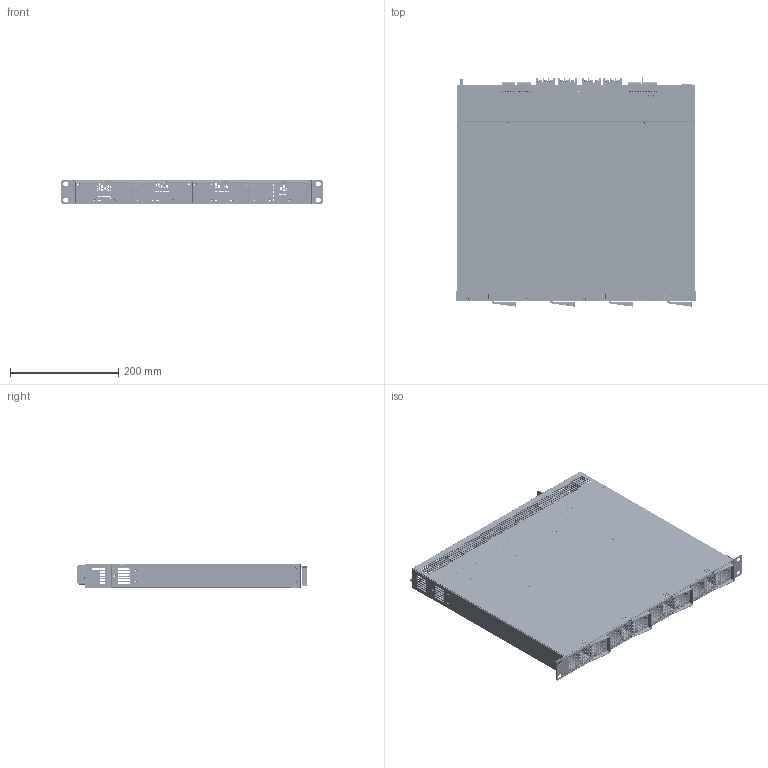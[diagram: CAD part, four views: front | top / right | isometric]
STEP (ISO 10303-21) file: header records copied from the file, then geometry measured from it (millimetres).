
FILE_DESCRIPTION(('Creo Elements/Direct Modeling STEP Export'),'2;1');
FILE_NAME('DHP-1U.stp','2019-04-17T 8:43:39',(''),(''),'PTC Creo Elements/Direct Modeling STEP processor for AP214 (Solid Model)','PTC Creo Elements/Direct Modeling 19.0 09-May-2014 (C) Parametric Technology GmbH','');
FILE_SCHEMA(('AUTOMOTIVE_DESIGN { 1 0 10303 214 1 1 1 1 }'));
Length unit declared in the file: millimetre
Products named in the file (70): 小板.1.1.1.1; ˋ°Ûy; 底蓋; 底; 上蓋; p2.1; p1.1; p1; 下蓋組; ¤ïÊlÛyÊ\S\; ¨Ã£\; PHONE_JACK.1.1; 9727R_PCB; Standard; 9727R_PHII; SUB-9PIN.1; SUB-9PIN; ¨■¥ñ.1.1.1.1.1.1.1.1.1.2.1; ¨■; cu2.1.1.1.1.2; SS; 後PCB; 把手1; 耳片2; 銅片66; 後SOKB; M3-8Lê°çñ.1.1.1.1.1.1.1.2.1.1.1; n1.1.1; 後端子A; 把手B; 把手a; a1.1.1; WW.3; WW.2; WW.1; WW; B單機; 前蓋; a2.1; C-B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
Assembly tree (97 placements, depth 8):
  ¤ïÊlÛyÊ\S\
  all
    ¤ïÊl.1.1.1.1.1.2.1  x4
    p2
    p1.1
    p1
    EEEE
    FFF
    EEEE.1
    a2
      a1.2.1.1  x4
        p1.1
        B-2.1
        單機.1.1.1.1
          V
          a1
            952.1
              hs
              FN  x2
              MHL-24.stp
                MHL-24
              a1
              a1.3
            把手a
              把手B
            mos
              MOSTO3P.1.1.1.1.1  x8
              TR-4RL.stp
                TR-4RL
            63.1.1  x2
            ÊU£\
          a2
            C-C
            C-B
          a2.1
        前蓋
          B單機
          WW
          WW.1
          WW.2
          WW.3
      a1.1.1
    小板.1.1.1.1  x5
    把手a
      把手B
    後端子A
      n1.1.1
      M3-8Lê°çñ.1.1.1.1.1.1.1.2.1.1.1
    後SOKB
    銅片66
    耳片2  x2
    把手1
    後PCB
      SS
        cu2.1.1.1.1.2  x4
        ¨■
          ¨■¥ñ.1.1.1.1.1.1.1.1.1.2.1  x4
          SUB-9PIN
          SUB-9PIN.1
          9727R_PHII
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Bounding box: 483.6 x 423.32 x 44 mm (x, y, z)
Volume: 752743.8 mm3; surface area: 1183167.6 mm2
Topology: 108 solids, 108 shells, 6361 faces, 16919 edges, 11077 vertices
Faces by surface type: plane 4090, cylinder 1913, cone 206, torus 128, bspline 24
Entity records: 81718 total; most frequent: CARTESIAN_POINT 14103, ORIENTED_EDGE 13842, DIRECTION 12922, EDGE_CURVE 6921, VECTOR 4778, LINE 4778, VERTEX_POINT 4517, AXIS2_PLACEMENT_3D 4072
